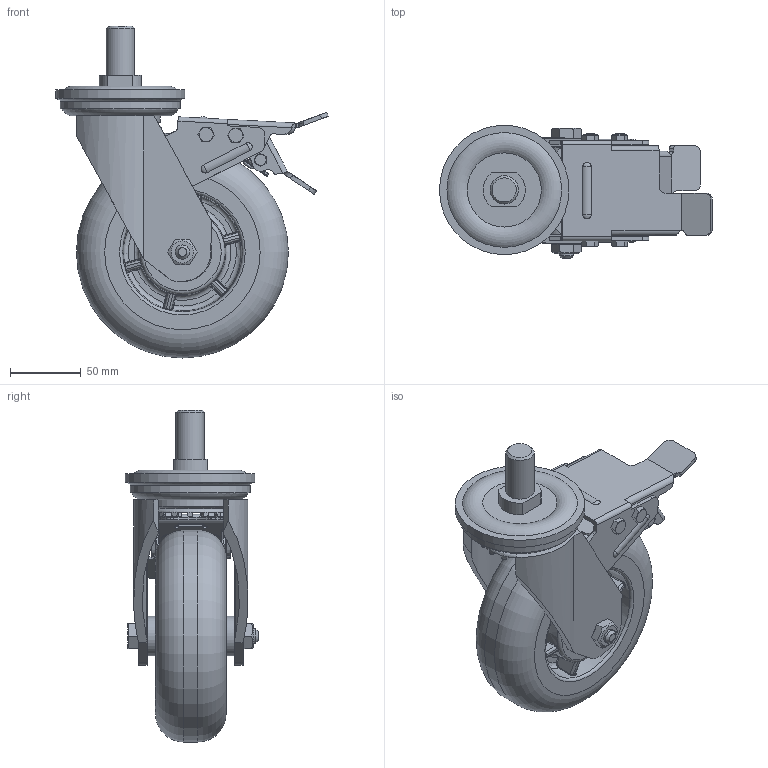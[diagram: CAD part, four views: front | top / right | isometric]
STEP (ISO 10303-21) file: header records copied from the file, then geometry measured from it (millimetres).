
FILE_DESCRIPTION(/* description */ (''),/* implementation_level */ '2;1');
FILE_NAME(/* name */ '35A98_6_F.stp',/* time_stamp */ '2022-10-07T09:50:36+08:00',/* author */ (''),/* organization */ (''),/* preprocessor_version */ 'ST-DEVELOPER v14',/* originating_system */ 'SIEMENS PLM Software NX 8.0',/* authorisation */ '');
FILE_SCHEMA (('AUTOMOTIVE_DESIGN { 1 0 10303 214 3 1 1 1 }'));
Length unit declared in the file: millimetre
Products named in the file (1): 35A98_6_F
Bounding box: 193.16 x 94.3 x 235 mm (x, y, z)
Volume: 959061.1 mm3; surface area: 212027.7 mm2
Topology: 1 solids, 4 shells, 1520 faces, 4189 edges, 2669 vertices
Faces by surface type: plane 652, cylinder 432, bspline 206, torus 82, cone 71, sphere 55, extrusion 22
Full cylindrical faces by diameter (mm): 4 x2, 4.2 x2, 5 x2, 5.2 x2, 5.997 x19, 6 x2, 6.2 x9, 7.78 x1, 9.78 x2, 10.104 x2, 12 x1, 12.3 x2, 16 x2, 16.2 x1, 17 x2, 20 x1, 20.5 x2, 22.276 x1, 24.188 x4, 26.256 x1, 28 x2, 32.812 x2, 39.85 x2, 40 x2, 57 x1, 85 x1, 91.6 x1, 150 x1
Entity records: 81142 total; most frequent: CARTESIAN_POINT 46229, ORIENTED_EDGE 7566, DIRECTION 6826, EDGE_CURVE 3783, AXIS2_PLACEMENT_3D 2778, VERTEX_POINT 2458, EDGE_LOOP 1799, ADVANCED_FACE 1500
